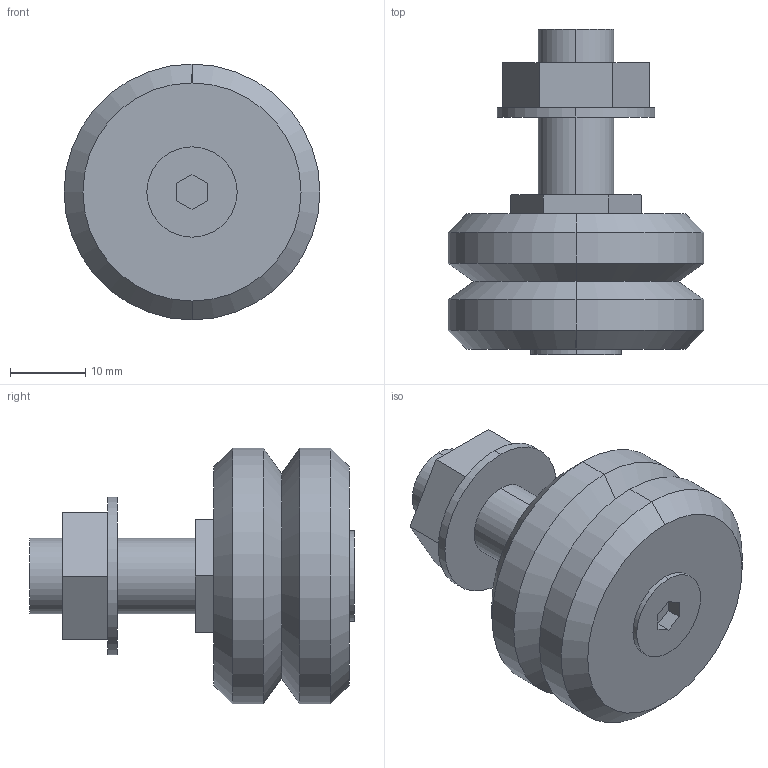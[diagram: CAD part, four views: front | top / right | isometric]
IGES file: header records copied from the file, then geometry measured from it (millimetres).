
Start section: 3D InterOp IGES (v. 2019 1.0.2), Spatial Corp. Copyright (c) 1999-2017.
Global section: file name: SS LJ34 C.igs; native system: Spatial Corp.; preprocessor: 3D InterOp GENERIC/IGES 3.0; author: Noname; organization: Noname; date: 20220628.114759; units: millimetre
Bounding box: 34 x 43.2 x 34 mm (x, y, z)
Surface area: 5319.7 mm2 (no closed solid volume)
Topology: 0 solids, 0 shells, 47 faces, 208 edges, 208 vertices
Faces by surface type: extrusion 27, revolution 20
